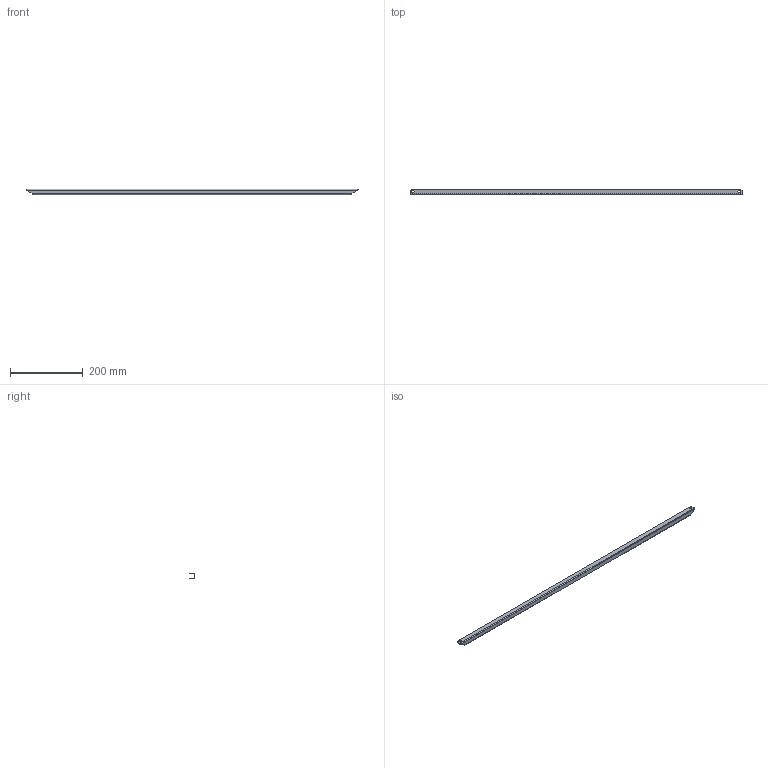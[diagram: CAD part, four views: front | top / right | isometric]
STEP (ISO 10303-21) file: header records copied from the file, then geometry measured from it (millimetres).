
FILE_DESCRIPTION (( 'STEP AP203' ), '1' );
FILE_NAME ('VB 100 Ðåéêà.STEP', '2012-11-15T06:57:22', ( 'Àëåêñàíäð' ), ( 'Ïðîâåíòî' ), 'SwSTEP 2.0', 'SolidWorks 2012', '' );
FILE_SCHEMA (( 'CONFIG_CONTROL_DESIGN' ));
Length unit declared in the file: millimetre
Products named in the file (1): VB 100 Ðåéêà
Bounding box: 910 x 15 x 15.5 mm (x, y, z)
Volume: 43635.1 mm3; surface area: 75567.5 mm2
Topology: 1 solids, 1 shells, 106 faces, 312 edges, 208 vertices
Faces by surface type: cylinder 82, plane 24
Entity records: 3869 total; most frequent: DIRECTION 686, CARTESIAN_POINT 663, ORIENTED_EDGE 624, EDGE_CURVE 312, AXIS2_PLACEMENT_3D 271, VERTEX_POINT 208, EDGE_LOOP 178, CIRCLE 164
